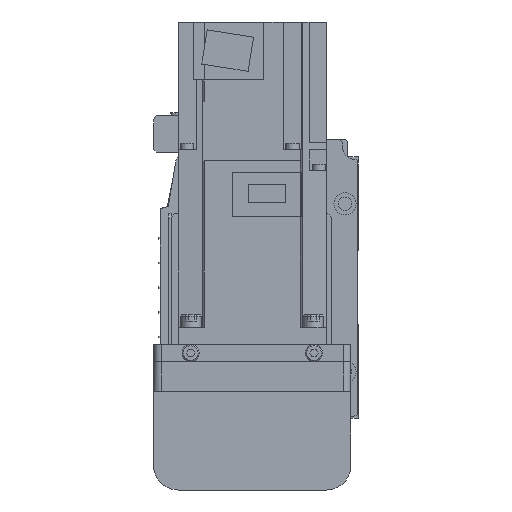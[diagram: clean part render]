
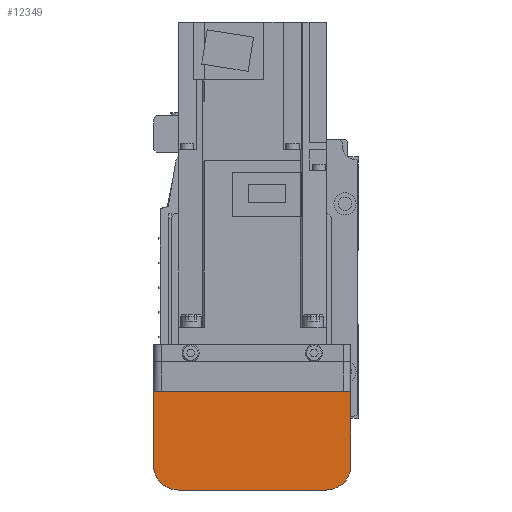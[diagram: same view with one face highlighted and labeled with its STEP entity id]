
A CAD part, left-side view. The second image highlights one B-rep face of the part: STEP entity #12349.
In plain terms, the highlighted planar face has unit normal (-1, 0, 0).
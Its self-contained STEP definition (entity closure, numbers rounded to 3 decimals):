
#471=CIRCLE('',#13291,10.);
#472=CIRCLE('',#13292,10.);
#2122=ORIENTED_EDGE('',*,*,#5001,.F.);
#2123=ORIENTED_EDGE('',*,*,#5002,.F.);
#2124=ORIENTED_EDGE('',*,*,#5003,.F.);
#2125=ORIENTED_EDGE('',*,*,#5004,.F.);
#2126=ORIENTED_EDGE('',*,*,#5005,.F.);
#2127=ORIENTED_EDGE('',*,*,#5006,.F.);
#5001=EDGE_CURVE('',#6547,#6543,#7805,.T.);
#5002=EDGE_CURVE('',#6559,#6547,#7806,.T.);
#5003=EDGE_CURVE('',#6560,#6559,#471,.T.);
#5004=EDGE_CURVE('',#6561,#6560,#7807,.T.);
#5005=EDGE_CURVE('',#6562,#6561,#472,.T.);
#5006=EDGE_CURVE('',#6543,#6562,#7808,.T.);
#6543=VERTEX_POINT('',#19267);
#6547=VERTEX_POINT('',#19277);
#6559=VERTEX_POINT('',#19306);
#6560=VERTEX_POINT('',#19308);
#6561=VERTEX_POINT('',#19310);
#6562=VERTEX_POINT('',#19312);
#7805=LINE('',#19304,#9033);
#7806=LINE('',#19305,#9034);
#7807=LINE('',#19309,#9035);
#7808=LINE('',#19313,#9036);
#9033=VECTOR('',#15508,1000.);
#9034=VECTOR('',#15509,1000.);
#9035=VECTOR('',#15512,1000.);
#9036=VECTOR('',#15515,1000.);
#10088=EDGE_LOOP('',(#2122,#2123,#2124,#2125,#2126,#2127));
#11018=FACE_BOUND('',#10088,.T.);
#11791=PLANE('',#13290);
#12349=ADVANCED_FACE('',(#11018),#11791,.F.);
#13290=AXIS2_PLACEMENT_3D('',#19303,#15506,#15507);
#13291=AXIS2_PLACEMENT_3D('',#19307,#15510,#15511);
#13292=AXIS2_PLACEMENT_3D('',#19311,#15513,#15514);
#15506=DIRECTION('',(1.,0.,0.));
#15507=DIRECTION('',(0.,0.,-1.));
#15508=DIRECTION('',(0.,-1.,0.));
#15509=DIRECTION('',(0.,0.,1.));
#15510=DIRECTION('',(1.,0.,0.));
#15511=DIRECTION('',(0.,0.,-1.));
#15512=DIRECTION('',(0.,1.,0.));
#15513=DIRECTION('',(1.,0.,0.));
#15514=DIRECTION('',(0.,0.,-1.));
#15515=DIRECTION('',(0.,0.,-1.));
#19267=CARTESIAN_POINT('',(-192.,-40.,-12.1));
#19277=CARTESIAN_POINT('',(-192.,40.,-12.1));
#19303=CARTESIAN_POINT('',(-192.,37.,7.));
#19304=CARTESIAN_POINT('',(-192.,50.,-12.1));
#19305=CARTESIAN_POINT('',(-192.,40.,-42.));
#19306=CARTESIAN_POINT('',(-192.,40.,-42.));
#19307=CARTESIAN_POINT('',(-192.,30.,-42.));
#19308=CARTESIAN_POINT('',(-192.,30.,-52.));
#19309=CARTESIAN_POINT('',(-192.,-30.,-52.));
#19310=CARTESIAN_POINT('',(-192.,-30.,-52.));
#19311=CARTESIAN_POINT('',(-192.,-30.,-42.));
#19312=CARTESIAN_POINT('',(-192.,-40.,-42.));
#19313=CARTESIAN_POINT('',(-192.,-40.,-12.1));
